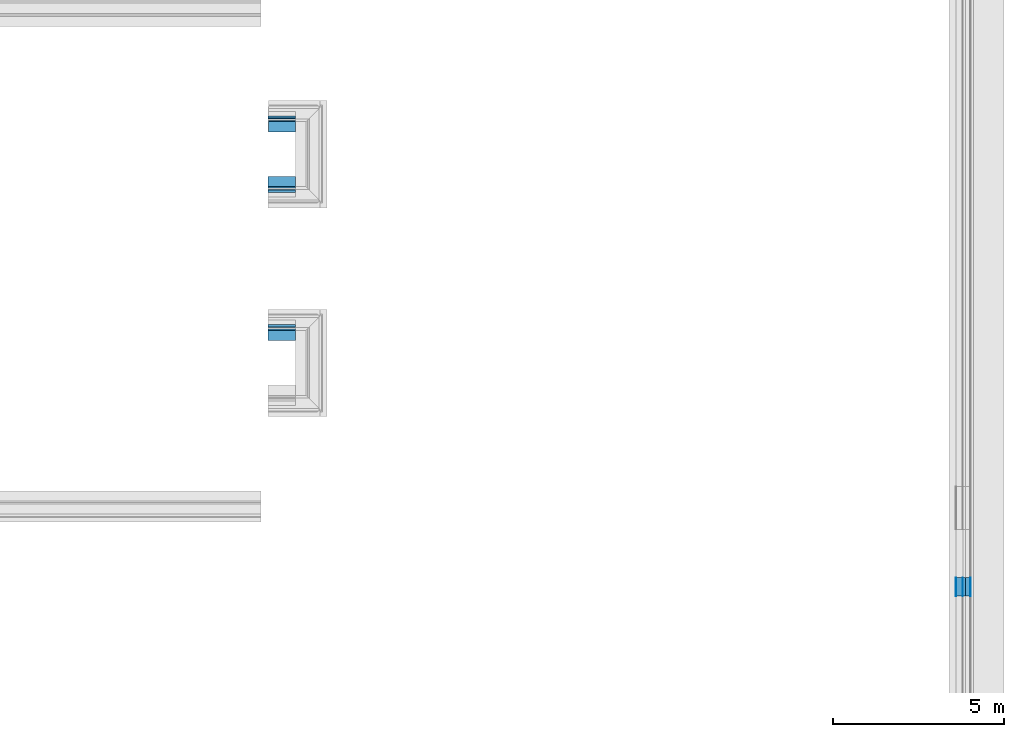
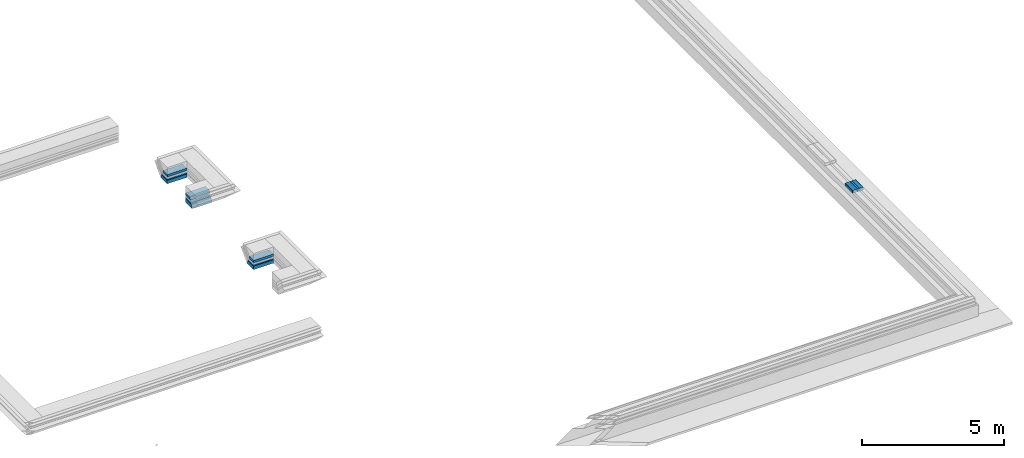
# One storey, part 17 of 17: 15 building element parts, 4 elements without a shape of their own.
"""IFC2X3 building model written with IfcOpenShell, lengths in millimetres."""

from ifc_helpers import new_model, entity, si_unit, converted_unit, derived_unit, money_unit, direction, frame, origin_with_axes, place, context, subcontext, project, spatial, faceted_brep, material, type_object, element, aggregate, save


model = new_model("IFC2X3")

# Units and contexts
model_context = context("Model", 3, precision=0.01, world=origin_with_axes(), true_north=direction((0.0, 1.0)))
body_context = subcontext(model_context, "Body", "Model", "MODEL_VIEW")
ifc_project = project(units=[si_unit("LENGTHUNIT", "METRE", prefix="MILLI"), si_unit("AREAUNIT", "SQUARE_METRE"), si_unit("VOLUMEUNIT", "CUBIC_METRE"), converted_unit("PLANEANGLEUNIT", "DEGREE", entity("IfcPlaneAngleMeasure", 0.0174532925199), si_unit("PLANEANGLEUNIT", "RADIAN"), dimensions=[0, 0, 0, 0, 0, 0, 0]), money_unit("EUR"), converted_unit("TIMEUNIT", "Year", entity("IfcTimeMeasure", 31556926.0), si_unit("TIMEUNIT", "SECOND"), dimensions=[0, 0, 1, 0, 0, 0, 0]), si_unit("MASSUNIT", "GRAM", prefix="KILO"), si_unit("THERMODYNAMICTEMPERATUREUNIT", "DEGREE_CELSIUS"), si_unit("LUMINOUSINTENSITYUNIT", "LUMEN"), si_unit("ENERGYUNIT", "JOULE", prefix="MEGA"), derived_unit("THERMALCONDUCTANCEUNIT", [(si_unit("POWERUNIT", "WATT"), 1), (si_unit("LENGTHUNIT", "METRE"), -1), (si_unit("THERMODYNAMICTEMPERATUREUNIT", "KELVIN"), -1)]), derived_unit("SPECIFICHEATCAPACITYUNIT", [(si_unit("ENERGYUNIT", "JOULE"), 1), (si_unit("MASSUNIT", "GRAM", prefix="KILO"), -1), (si_unit("THERMODYNAMICTEMPERATUREUNIT", "KELVIN"), -1)]), derived_unit("MASSDENSITYUNIT", [(si_unit("MASSUNIT", "GRAM", prefix="KILO"), 1), (si_unit("VOLUMEUNIT", "CUBIC_METRE"), -1)])], contexts=[model_context])

# Site, building, storey
site_placement = place(None, origin_with_axes())
site = spatial("IfcSite", under=ifc_project, at=site_placement, Name="Kolde pst 67a", CompositionType="ELEMENT")
building_placement = place(site_placement, origin_with_axes())
building = spatial("IfcBuilding", under=site, at=building_placement, Name="Riigigümnaasium", CompositionType="ELEMENT")
storey_placement = place(building_placement, frame((0.0, 0.0, -1500.0), z_axis=(0.0, 0.0, 1.0), x_axis=(1.0, 0.0, 0.0)))
storey = spatial("IfcBuildingStorey", under=building, at=storey_placement, Name="Vundament", CompositionType="ELEMENT", Elevation=-1500.0)

# Wall, building element parts
wall_type_1 = type_object("IfcWallType", Name="garderoobi plaadipaksendus 916 x 700", PredefinedType="NOTDEFINED")
wall_1_placement = place(storey_placement, frame((65234.9400224, 15464.9849226, 1095.0000029), z_axis=(0.0, 0.0, 1.0), x_axis=(-0.999999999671, -2.56425605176e-05, 0.0)))
wall_1 = element("IfcWall", 1, at=wall_1_placement, inside=storey, type_object=wall_type_1, Name="Vundament")
ifc_material_1 = material(Name="_SOOJUSTUS - vahtpolüstüreenplaadid EPS 120 Perimeeter, survetugevus min 120kPa, veeimavus <2%, soojuserijuhtivus λD<0,036 W/(mK)")
building_element_part_1_placement = place(wall_1_placement, origin_with_axes())
building_element_part_1 = element("IfcBuildingElementPart", 2, at=building_element_part_1_placement, material=ifc_material_1, Name="_SOOJUSTUS - vahtpolüstüreenplaadid EPS 120 Perimeeter, survetugevus min 120kPa, veeimavus <2%, soojuserijuhtivus λD<0,036 W/(mK)", context=body_context, shape_type="Brep", body=[
    faceted_brep([(1105.45068558, 294.997850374, 4.99999671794), (1105.45068558, 294.993597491, -95.1407949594), (294.99228861, 294.993597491, -95.1407949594), (294.996541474, 294.997850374, 4.99999365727), (1105.45068558, 86.6753466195, 4.99999671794), (1105.45068558, -4.95922611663, 4.95922427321), (1105.45068558, -46.3388389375, -95.1407949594), (294.993803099, -46.3388389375, -95.1407949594), (294.997870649, -4.95922615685, 4.95922417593), (294.99746583, 86.6684678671, 4.99999365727)], [[[0, 1, 2, 3]], [[1, 0, 4, 5, 6]], [[1, 6, 7, 2]], [[3, 2, 7, 8, 9]], [[4, 0, 3, 9]], [[5, 4, 9, 8]], [[6, 5, 8, 7]]]),
])
ifc_material_2 = material(Name="_TÄIDE - tasandus-/tugevduskiht, pinnasesse tambitud killustik E=80MPa, kiilutud fr 4/16")
building_element_part_2_placement = place(wall_1_placement, origin_with_axes())
building_element_part_2 = element("IfcBuildingElementPart", 3, at=building_element_part_2_placement, material=ifc_material_2, Name="_TÄIDE - tasandus-/tugevduskiht, pinnasesse tambitud killustik E=80MPa, kiilutud fr 4/16", context=body_context, shape_type="Brep", body=[
    faceted_brep([(1105.45068558, 294.993584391, -195.240793), (1105.45068558, 294.993573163, -245.240789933), (294.992264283, 294.993573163, -245.240789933), (294.992275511, 294.993584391, -195.240796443), (1105.45068558, -87.7845113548, -195.240793), (1105.45068558, -108.495191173, -245.19961736), (1105.45068558, -108.512246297, -245.240789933), (294.994054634, -108.512246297, -245.240789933), (294.994054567, -108.495194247, -245.199624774), (294.993973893, -87.7845127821, -195.240796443)], [[[0, 1, 2, 3]], [[1, 0, 4, 5, 6]], [[1, 6, 7, 2]], [[3, 2, 7, 8, 9]], [[4, 0, 3, 9]], [[5, 4, 9, 8]], [[6, 5, 8, 7]]]),
])
ifc_material_3 = material(Name="_TÄIDE - tasandus-/tugevduskiht, pinnasesse tambitud killustik E=80MPa, fr 16/32")
building_element_part_3_placement = place(wall_1_placement, origin_with_axes())
building_element_part_3 = element("IfcBuildingElementPart", 4, at=building_element_part_3_placement, material=ifc_material_3, Name="_TÄIDE - tasandus-/tugevduskiht, pinnasesse tambitud killustik E=80MPa, fr 16/32", context=body_context, shape_type="Brep", body=[
    faceted_brep([(294.99223436, 294.99354324, -395.240786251), (294.992261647, 294.993570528, -245.240788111), (1105.45068558, 294.993570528, -245.24078505), (1105.45068558, 294.99354324, -395.24078319), (294.994051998, -108.512240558, -245.240788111), (294.994298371, -170.189294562, -395.240786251), (1105.45068558, -108.512240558, -245.240798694), (1105.45068558, -170.189294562, -395.24078319)], [[[0, 1, 2, 3]], [[4, 1, 0, 5]], [[1, 4, 6, 2]], [[3, 2, 6, 7]], [[5, 0, 3, 7]], [[4, 5, 7, 6]]]),
])
aggregate(wall_1, [building_element_part_1, building_element_part_2, building_element_part_3])

wall_2_placement = place(storey_placement, frame((64129.5733688, 19675.049722, 1095.0000029), z_axis=(0.0, 0.0, 1.0), x_axis=(0.999999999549, 3.00179615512e-05, 0.0)))
wall_2 = element("IfcWall", 5, at=wall_2_placement, inside=storey, type_object=wall_type_1, Name="Vundament")
building_element_part_4_placement = place(wall_2_placement, origin_with_axes())
building_element_part_4 = element("IfcBuildingElementPart", 6, at=building_element_part_4_placement, material=ifc_material_1, Name="_SOOJUSTUS - vahtpolüstüreenplaadid EPS 120 Perimeeter, survetugevus min 120kPa, veeimavus <2%, soojuserijuhtivus λD<0,036 W/(mK)", context=body_context, shape_type="Brep", body=[
    faceted_brep([(0.0, -4.95922611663, 4.95922427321), (0.0, -46.3388389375, -95.1407949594), (810.246552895, -46.3388389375, -95.1407949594), (810.242300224, -4.95922615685, 4.95922417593), (0.0, 86.6753466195, 4.99999671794), (0.0, 294.997850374, 4.99999671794), (0.0, 294.993597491, -95.1407949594), (810.246540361, 294.993597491, -95.1407949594), (810.242295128, 86.6684678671, 4.99999365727), (810.242287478, 294.997850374, 4.99999365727)], [[[0, 1, 2, 3]], [[1, 0, 4, 5, 6]], [[1, 6, 7, 2]], [[8, 3, 2, 7, 9]], [[4, 0, 3, 8]], [[5, 4, 8, 9]], [[6, 5, 9, 7]]]),
])
building_element_part_5_placement = place(wall_2_placement, origin_with_axes())
building_element_part_5 = element("IfcBuildingElementPart", 7, at=building_element_part_5_placement, material=ifc_material_2, Name="_TÄIDE - tasandus-/tugevduskiht, pinnasesse tambitud killustik E=80MPa, kiilutud fr 4/16", context=body_context, shape_type="Brep", body=[
    faceted_brep([(0.0, -108.495191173, -245.19961736), (0.0, -108.512246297, -245.240789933), (810.246579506, -108.512246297, -245.240789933), (810.246579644, -108.495194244, -245.199624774), (0.0, -87.7845113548, -195.240793), (0.0, 294.993584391, -195.240793), (0.0, 294.993573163, -245.240789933), (810.246564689, 294.993573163, -245.240789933), (810.246553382, 294.993584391, -195.240796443), (810.246567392, -87.7845127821, -195.240796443)], [[[0, 1, 2, 3]], [[1, 0, 4, 5, 6]], [[1, 6, 7, 2]], [[3, 2, 7, 8, 9]], [[4, 0, 3, 9]], [[5, 4, 9, 8]], [[6, 5, 8, 7]]]),
])
building_element_part_6_placement = place(wall_2_placement, origin_with_axes())
building_element_part_6 = element("IfcBuildingElementPart", 8, at=building_element_part_6_placement, material=ifc_material_3, Name="_TÄIDE - tasandus-/tugevduskiht, pinnasesse tambitud killustik E=80MPa, fr 16/32", context=body_context, shape_type="Brep", body=[
    faceted_brep([(810.246611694, -170.189294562, -395.240786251), (810.246582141, -108.512240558, -245.240788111), (0.0, -108.512240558, -245.240798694), (0.0, -170.189294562, -395.24078319), (810.246567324, 294.993570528, -245.240788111), (810.246594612, 294.99354324, -395.240786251), (0.0, 294.993570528, -245.24078505), (0.0, 294.99354324, -395.24078319)], [[[0, 1, 2, 3]], [[4, 1, 0, 5]], [[1, 4, 6, 2]], [[7, 3, 2, 6]], [[5, 0, 3, 7]], [[4, 5, 7, 6]]]),
])
aggregate(wall_2, [building_element_part_4, building_element_part_5, building_element_part_6])

wall_3_placement = place(storey_placement, frame((65234.7567149, 21565.0400555, 1095.0000029), z_axis=(0.0, 0.0, 1.0), x_axis=(-0.999999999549, -3.00179615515e-05, 0.0)))
wall_3 = element("IfcWall", 9, at=wall_3_placement, inside=storey, type_object=wall_type_1, Name="Vundament")
building_element_part_7_placement = place(wall_3_placement, origin_with_axes())
building_element_part_7 = element("IfcBuildingElementPart", 10, at=building_element_part_7_placement, material=ifc_material_1, Name="_SOOJUSTUS - vahtpolüstüreenplaadid EPS 120 Perimeeter, survetugevus min 120kPa, veeimavus <2%, soojuserijuhtivus λD<0,036 W/(mK)", context=body_context, shape_type="Brep", body=[
    faceted_brep([(1095.13322024, -46.3388389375, -95.1407949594), (1095.1332177, -4.95922611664, 4.95922427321), (294.997848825, -4.95922611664, 4.95922427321), (294.993599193, -46.3388389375, -95.1407949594), (1095.13321205, 86.6752605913, 4.99999667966), (1095.13319922, 294.993597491, -95.1407949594), (1095.13319922, 294.997850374, 4.99999667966), (294.997847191, 86.6684678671, 4.99999365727), (294.997839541, 294.997850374, 4.99999365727), (294.993586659, 294.993597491, -95.1407949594)], [[[0, 1, 2, 3]], [[4, 1, 0, 5, 6]], [[1, 4, 7, 2]], [[7, 8, 9, 3, 2]], [[5, 0, 3, 9]], [[6, 5, 9, 8]], [[4, 6, 8, 7]]]),
])
building_element_part_8_placement = place(wall_3_placement, origin_with_axes())
building_element_part_8 = element("IfcBuildingElementPart", 11, at=building_element_part_8_placement, material=ifc_material_2, Name="_TÄIDE - tasandus-/tugevduskiht, pinnasesse tambitud killustik E=80MPa, kiilutud fr 4/16", context=body_context, shape_type="Brep", body=[
    faceted_brep([(1105.26673559, 294.993584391, -195.240793), (1105.26673559, 294.993573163, -245.240789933), (294.993562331, 294.993573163, -245.240789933), (294.99357348, 294.993584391, -195.240796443), (1105.26673559, -87.7845113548, -195.240793), (1105.26673559, -108.495191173, -245.19961736), (1105.26673559, -108.512246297, -245.240789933), (294.993577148, -108.512246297, -245.240789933), (294.993576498, -108.495194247, -245.199624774), (294.99358749, -87.7845127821, -195.240796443)], [[[0, 1, 2, 3]], [[1, 0, 4, 5, 6]], [[1, 6, 7, 2]], [[3, 2, 7, 8, 9]], [[4, 0, 3, 9]], [[5, 4, 9, 8]], [[6, 5, 8, 7]]]),
])
building_element_part_9_placement = place(wall_3_placement, origin_with_axes())
building_element_part_9 = element("IfcBuildingElementPart", 12, at=building_element_part_9_placement, material=ifc_material_3, Name="_TÄIDE - tasandus-/tugevduskiht, pinnasesse tambitud killustik E=80MPa, fr 16/32", context=body_context, shape_type="Brep", body=[
    faceted_brep([(294.993532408, 294.99354324, -395.240786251), (294.993559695, 294.993570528, -245.240788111), (1105.26673559, 294.993570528, -245.24078505), (1105.26673559, 294.99354324, -395.24078319), (294.993574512, -108.512240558, -245.240788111), (294.993549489, -170.189294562, -395.240786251), (1105.26673559, -108.512240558, -245.240798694), (1105.26673559, -170.189294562, -395.24078319)], [[[0, 1, 2, 3]], [[4, 1, 0, 5]], [[1, 4, 6, 2]], [[3, 2, 6, 7]], [[5, 0, 3, 7]], [[4, 5, 7, 6]]]),
])
aggregate(wall_3, [building_element_part_7, building_element_part_8, building_element_part_9])

wall_type_2 = type_object("IfcWallType", Name="VS-RB-20/2_sokkel  443", PredefinedType="NOTDEFINED")
wall_4_placement = place(storey_placement, frame((84439.9993279, 7699.9736286, 1480.0), z_axis=(0.0, 0.0, 1.0), x_axis=(0.0, 1.0, 0.0)))
wall_4 = element("IfcWall", 13, at=wall_4_placement, inside=storey, type_object=wall_type_2, Name="Sokkel")
ifc_material_4 = material(Name="_VIIMISTLUSKIHT - viimistlus vastavalt SA osale")
building_element_part_10_placement = place(wall_4_placement, origin_with_axes())
building_element_part_10 = element("IfcBuildingElementPart", 14, at=building_element_part_10_placement, material=ifc_material_4, Name="_VIIMISTLUSKIHT - viimistlus vastavalt SA osale", context=body_context, shape_type="Brep", body=[
    faceted_brep([(541.037082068, 210.0, 0.0), (541.037082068, 200.0, 0.0), (0.0, 200.0, 0.0), (0.0, 210.0, 0.0), (541.037082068, 210.0, 120.0000017), (541.037082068, 200.0, 120.0000017), (0.0, 200.0, 120.0000017), (0.0, 210.0, 120.0000017)], [[[0, 1, 2, 3]], [[0, 4, 5, 1]], [[1, 5, 6, 2]], [[3, 2, 6, 7]], [[4, 0, 3, 7]], [[5, 4, 7, 6]]]),
])
ifc_material_5 = material(Name="_KANDETARIND - monteeritav raudbetoon vastavalt EK osale")
building_element_part_11_placement = place(wall_4_placement, origin_with_axes())
building_element_part_11 = element("IfcBuildingElementPart", 15, at=building_element_part_11_placement, material=ifc_material_5, Name="_KANDETARIND - monteeritav raudbetoon vastavalt EK osale", context=body_context, shape_type="Brep", body=[
    faceted_brep([(541.037082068, 200.0, 0.0), (541.037082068, 0.0, 0.0), (0.0, 0.0, 0.0), (0.0, 200.0, 0.0), (541.037082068, 200.0, 120.0000017), (541.037082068, 0.0, 120.0000017), (0.0, 0.0, 120.0000017), (0.0, 200.0, 120.0000017)], [[[0, 1, 2, 3]], [[0, 4, 5, 1]], [[1, 5, 6, 2]], [[3, 2, 6, 7]], [[4, 0, 3, 7]], [[5, 4, 7, 6]]]),
])
ifc_material_6 = material(Name="_HÜDROISOLATSIOON - 3x SBS rullmaterjal vastavalt TL2 nõuetele, nakke tugevduseks betoonpind eelnevalt katta hüdroisolatsiooni bituumenvõõbaga")
building_element_part_12_placement = place(wall_4_placement, origin_with_axes())
building_element_part_12 = element("IfcBuildingElementPart", 16, at=building_element_part_12_placement, material=ifc_material_6, Name="_HÜDROISOLATSIOON - 3x SBS rullmaterjal vastavalt TL2 nõuetele, nakke tugevduseks betoonpind eelnevalt katta hüdroisolatsiooni bituumenvõõbaga", context=body_context, shape_type="Brep", body=[
    faceted_brep([(541.037082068, 0.0, 0.0), (541.037082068, -3.0, 0.0), (0.0, -3.0, 0.0), (0.0, 0.0, 0.0), (541.037082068, 0.0, 120.0000017), (541.037082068, -3.0, 120.0000017), (0.0, -3.0, 120.0000017), (0.0, 0.0, 120.0000017)], [[[0, 1, 2, 3]], [[0, 4, 5, 1]], [[1, 5, 6, 2]], [[3, 2, 6, 7]], [[4, 0, 3, 7]], [[5, 4, 7, 6]]]),
])
ifc_material_7 = material(Name="_SOOJUSTUS - ekstrudeeritud polüstüreenist plaadid XPS 250, survetugevus min 250kPa, soojuserijuhtivus λD<0,036 W/(mK), veeimavus alla 0,2%, näiteks XPS 250 foam SL või samaväärne")
building_element_part_13_placement = place(wall_4_placement, origin_with_axes())
building_element_part_13 = element("IfcBuildingElementPart", 17, at=building_element_part_13_placement, material=ifc_material_7, Name="_SOOJUSTUS - ekstrudeeritud polüstüreenist plaadid XPS 250, survetugevus min 250kPa, soojuserijuhtivus λD<0,036 W/(mK), veeimavus alla 0,2%, näiteks XPS 250 foam SL või samaväärne", context=body_context, shape_type="Brep", body=[
    faceted_brep([(541.037082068, -3.0, 0.0), (541.037082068, -73.0, 0.0), (0.0, -73.0, 0.0), (0.0, -3.0, 0.0), (541.037082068, -3.0, 120.0000017), (541.037082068, -73.0, 120.0000017), (0.0, -73.0, 120.0000017), (0.0, -3.0, 120.0000017)], [[[0, 1, 2, 3]], [[0, 4, 5, 1]], [[1, 5, 6, 2]], [[3, 2, 6, 7]], [[4, 0, 3, 7]], [[5, 4, 7, 6]]]),
])
building_element_part_14_placement = place(wall_4_placement, origin_with_axes())
building_element_part_14 = element("IfcBuildingElementPart", 18, at=building_element_part_14_placement, material=ifc_material_1, Name="_SOOJUSTUS - vahtpolüstüreenplaadid EPS 120 Perimeeter, survetugevus min 120kPa, veeimavus <2%, soojuserijuhtivus λD<0,036 W/(mK)", context=body_context, shape_type="Brep", body=[
    faceted_brep([(541.037082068, -73.0, 0.0), (541.037082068, -223.0, 0.0), (0.0, -223.0, 0.0), (0.0, -73.0, 0.0), (541.037082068, -73.0, 120.0000017), (541.037082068, -223.0, 120.0000017), (0.0, -223.0, 120.0000017), (0.0, -73.0, 120.0000017)], [[[0, 1, 2, 3]], [[0, 4, 5, 1]], [[1, 5, 6, 2]], [[3, 2, 6, 7]], [[4, 0, 3, 7]], [[5, 4, 7, 6]]]),
])
ifc_material_8 = material(Name="_TUULETÕKE - sokli krohv, silikoonvaikkrohv Weber.pas 481 AquaBalance 1mm \"scratch\" viimistlus, toon helehall CL444 (S 3502-Y) * 35, SILS süsteem, või samaväärne")
building_element_part_15_placement = place(wall_4_placement, origin_with_axes())
building_element_part_15 = element("IfcBuildingElementPart", 19, at=building_element_part_15_placement, material=ifc_material_8, Name="_TUULETÕKE - sokli krohv, silikoonvaikkrohv Weber.pas 481 AquaBalance 1mm \"scratch\" viimistlus, toon helehall CL444 (S 3502-Y) * 35, SILS süsteem, või samaväärne", context=body_context, shape_type="Brep", body=[
    faceted_brep([(541.037082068, -223.0, 0.0), (541.037082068, -233.0, 0.0), (0.0, -233.0, 0.0), (0.0, -223.0, 0.0), (541.037082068, -223.0, 120.0000017), (541.037082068, -233.0, 120.0000017), (0.0, -233.0, 120.0000017), (0.0, -223.0, 120.0000017)], [[[0, 1, 2, 3]], [[0, 4, 5, 1]], [[1, 5, 6, 2]], [[3, 2, 6, 7]], [[4, 0, 3, 7]], [[5, 4, 7, 6]]]),
])
aggregate(wall_4, [building_element_part_10, building_element_part_11, building_element_part_12, building_element_part_13, building_element_part_14, building_element_part_15])

save(model, "model.ifc")
